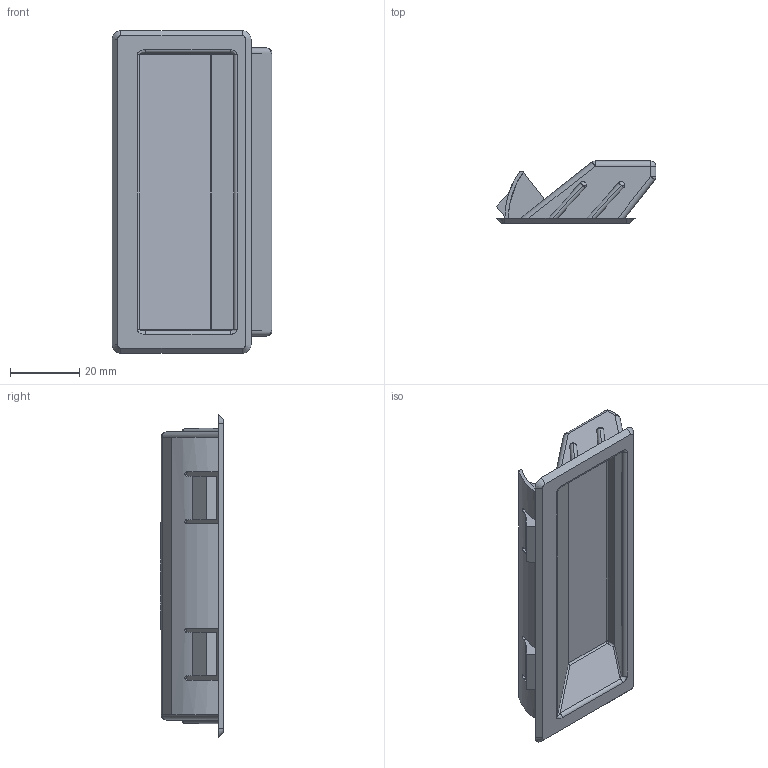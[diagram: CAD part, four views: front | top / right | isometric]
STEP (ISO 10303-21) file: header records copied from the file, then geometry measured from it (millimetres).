
FILE_DESCRIPTION (( 'STEP AP203' ), '1' );
FILE_NAME ('SK4-017-2B.STEP', '2018-11-02T05:09:37', ( 'admin' ), ( 'Microsoft' ), 'SwSTEP 2.0', 'SolidWorks 2015', '' );
FILE_SCHEMA (( 'CONFIG_CONTROL_DESIGN' ));
Length unit declared in the file: millimetre
Products named in the file (1): SK4-017-2B
Bounding box: 46 x 18.3 x 93 mm (x, y, z)
Volume: 12272.4 mm3; surface area: 17588.2 mm2
Topology: 1 solids, 1 shells, 328 faces, 885 edges, 568 vertices
Faces by surface type: plane 202, bspline 59, cylinder 45, sphere 18, cone 4
Entity records: 14068 total; most frequent: CARTESIAN_POINT 6257, ORIENTED_EDGE 1738, DIRECTION 1359, EDGE_CURVE 869, VECTOR 627, LINE 627, VERTEX_POINT 564, AXIS2_PLACEMENT_3D 366
